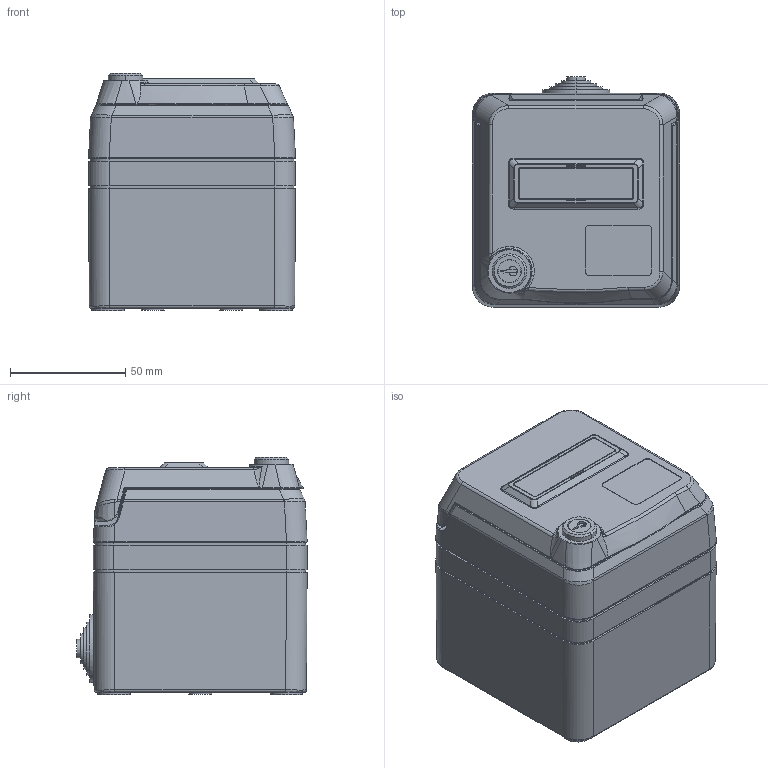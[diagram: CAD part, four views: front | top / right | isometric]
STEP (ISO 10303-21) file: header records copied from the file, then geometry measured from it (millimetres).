
FILE_DESCRIPTION((''),'2;1');
FILE_NAME('C00008893_SW0001','2026-03-26T13:29:02',('thiedeman001'),('MENNEKES'),'CREO PARAMETRIC BY PTC INC, 2024153','CREO PARAMETRIC BY PTC INC, 2024153','');
FILE_SCHEMA(('AUTOMOTIVE_DESIGN { 1 0 10303 214 1 1 1 1 }'));
Products named in the file (1): C00008893_SW0001
Bounding box: 90 x 100.14 x 103.1 mm (x, y, z)
Volume: 787000 mm3; surface area: 55185.4 mm2
Topology: 1 solids, 1 shells, 1417 faces, 3823 edges, 2478 vertices
Faces by surface type: plane 1080, cylinder 175, bspline 127, cone 14, torus 10, extrusion 8, sphere 3
Entity records: 73637 total; most frequent: CARTESIAN_POINT 17111, ORIENTED_EDGE 7642, DIRECTION 6450, PRESENTATION_STYLE_ASSIGNMENT 5247, STYLED_ITEM 3830, CURVE_STYLE 3829, EDGE_CURVE 3821, VECTOR 3196
